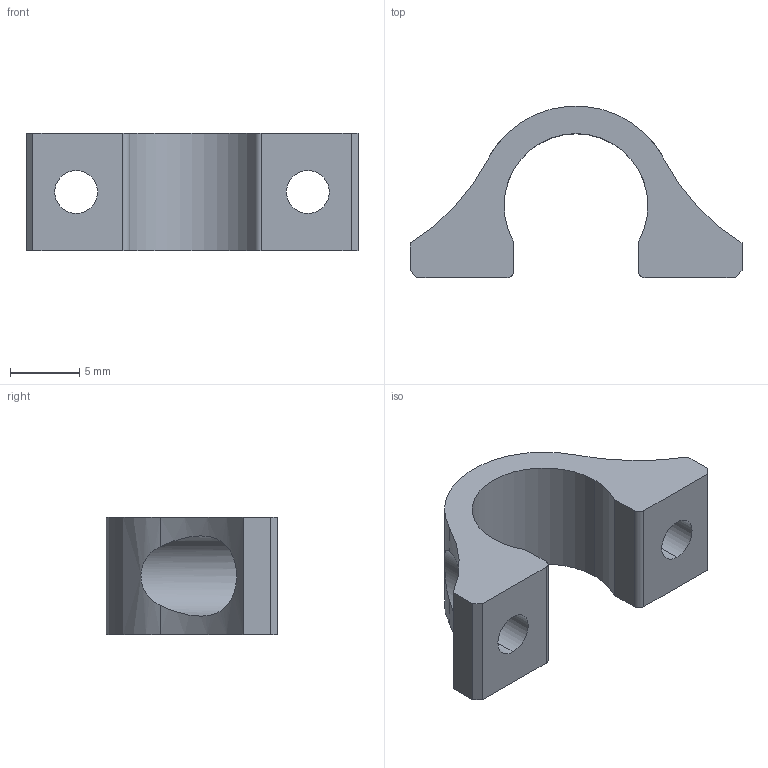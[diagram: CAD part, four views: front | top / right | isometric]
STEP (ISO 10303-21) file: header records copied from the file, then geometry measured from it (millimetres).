
FILE_DESCRIPTION (( 'STEP AP203' ), '1' );
FILE_NAME ('BR01_HIP_WIRE_CLIP-10.STEP');
FILE_SCHEMA (( 'CONFIG_CONTROL_DESIGN' ));
Length unit declared in the file: millimetre
Products named in the file (1): BR01_HIP_WIRE_CLIP-10
Bounding box: 24 x 12.37 x 8.5 mm (x, y, z)
Volume: 701.6 mm3; surface area: 998.2 mm2
Topology: 1 solids, 1 shells, 30 faces, 84 edges, 56 vertices
Faces by surface type: cylinder 18, plane 12
Entity records: 1181 total; most frequent: CARTESIAN_POINT 303, DIRECTION 170, ORIENTED_EDGE 168, EDGE_CURVE 84, AXIS2_PLACEMENT_3D 63, VERTEX_POINT 56, VECTOR 44, LINE 44
